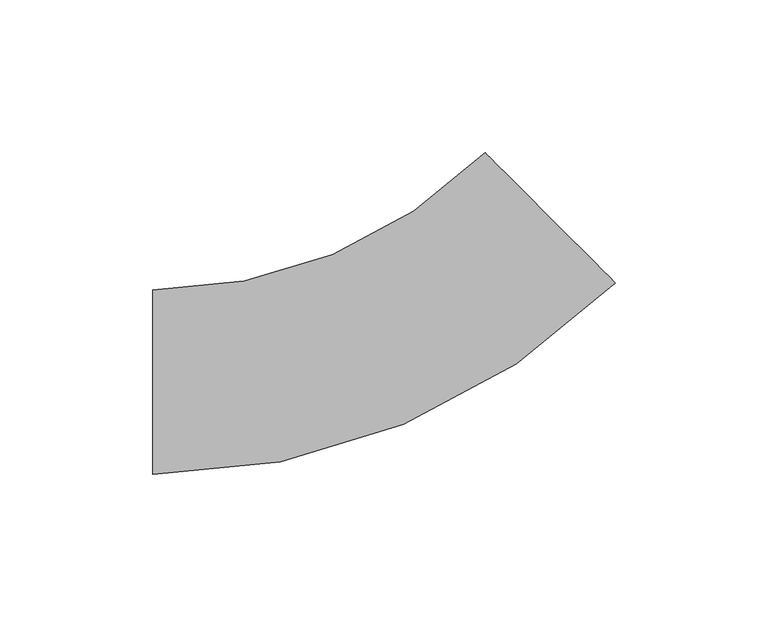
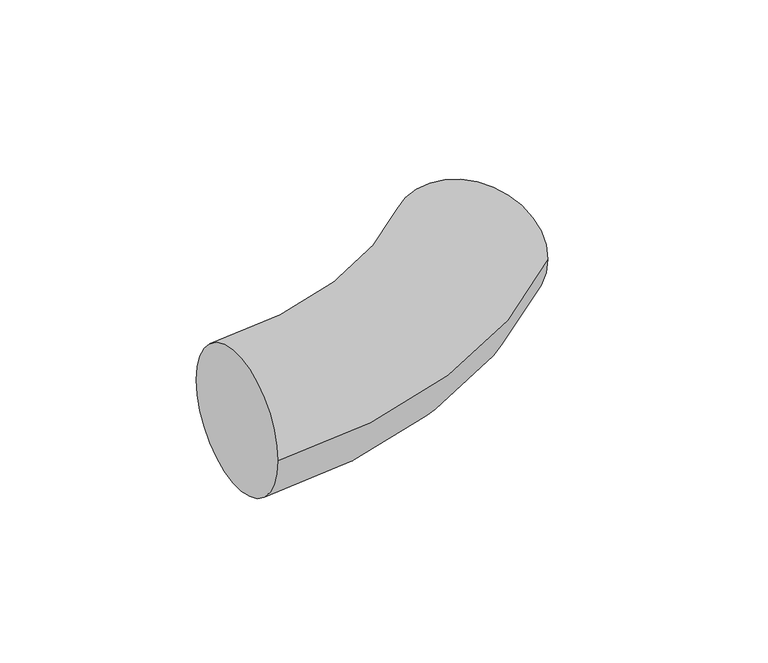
"""IFC4 building model written with IfcOpenShell, lengths in millimetres: pipe fitting geometry, Curva Rede Frigorígena : Curva Rede Frigorígena."""

from ifc_helpers import new_model, si_unit, point, frame, origin, place, context, project, spatial, circle_curve, ellipse_curve, trimmed, source, transform, mapped, element, save
from ifc_brep_helpers import plane_surface, revolved_surface, advanced_brep


def pipe_fitting_fc837bde(model_context):
    return source(origin(), model_context, "Body", "AdvancedBrep", [
        advanced_brep(
        [(-76.2, -30.15, 0.0), (-76.2, 30.15, 0.0), (75.2034405, 32.5561828, 0.0), (32.5683516, 75.1981714, 0.0)],
        [
            (0, 1, circle_curve(frame((-76.2, 0.0, 0.0), z_axis=(-1.0, 0.0, 0.0), x_axis=(0.0, 1.0, 0.0)), 30.15)),
            (1, 0, circle_curve(frame((-76.2, 0.0, 0.0), z_axis=(-1.0, 0.0, 0.0), x_axis=(0.0, 1.0, 0.0)), 30.15)),
            (2, 3, circle_curve(frame((53.885896, 53.8771771, 0.0), z_axis=(0.7071639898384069, 0.7070495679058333, 0.0), x_axis=(-0.7070495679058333, 0.7071639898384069, 0.0)), 30.15)),
            (3, 2, circle_curve(frame((53.885896, 53.8771771, 0.0), z_axis=(0.7071639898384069, 0.7070495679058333, 0.0), x_axis=(-0.7070495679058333, 0.7071639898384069, 0.0)), 30.15)),
            (3, 1, circle_curve(frame((-76.2, 183.9841249, 0.0), z_axis=(0.0, 0.0, -1.0), x_axis=(0.0, -1.0, 0.0)), 153.8341249)),
            (0, 2, circle_curve(frame((-76.2, 183.9841249, 0.0), z_axis=(0.0, 0.0, 1.0), x_axis=(0.0, -1.0, 0.0)), 214.1341249)),
        ],
        [
            plane_surface(frame((-76.2, 0.0, 0.0), z_axis=(-1.0, 0.0, 0.0), x_axis=(0.0, 0.0, 1.0))),
            plane_surface(frame((53.885896, 53.8771771, 0.0), z_axis=(0.7071639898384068, 0.7070495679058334, 0.0), x_axis=(0.0, 0.0, 1.0))),
            revolved_surface(trimmed(ellipse_curve(frame((-76.2, 0.0, 0.0), z_axis=(-1.0, 0.0, 0.0), x_axis=(0.0, 1.0, 0.0)), 30.15, 30.15), [point((-76.2, -30.15, 0.0))], [point((-76.2, 30.15, 0.0))], True, "CARTESIAN"), (-76.2, 183.9841249, 0.0), (0.0, 0.0, 1.0)),
            revolved_surface(trimmed(ellipse_curve(frame((-76.2, 0.0, 0.0), z_axis=(-1.0, 0.0, 0.0), x_axis=(0.0, 1.0, 0.0)), 30.15, 30.15), [point((-76.2, 30.15, 0.0))], [point((-76.2, -30.15, 0.0))], True, "CARTESIAN"), (-76.2, 183.9841249, 0.0), (0.0, 0.0, 1.0)),
        ],
        [
            (0, [[1, 2]]),
            (1, [[3, 4]]),
            (2, [[5, -1, 6, -4]]),
            (3, [[-6, -2, -5, -3]]),
        ],
    ),
    ])


if __name__ == "__main__":
    model = new_model("IFC4")
    model_context = context("Model", 3, world=origin())
    ifc_project = project(units=[si_unit("LENGTHUNIT", "METRE", prefix="MILLI")], contexts=[model_context])
    site = spatial("IfcSite", under=ifc_project)
    building = spatial("IfcBuilding", under=site)
    placement = place(None, origin())
    pipe_fitting_shape = pipe_fitting_fc837bde(model_context)
    element("IfcPipeFitting", 1, ObjectType="Curva Rede Frigorígena : Curva Rede Frigorígena", at=placement, inside=building, context=model_context, shape_type="MappedRepresentation", body=[
        mapped(pipe_fitting_shape, transform((0.0, 0.0, 0.0), x_axis=(1.0, 0.0, 0.0), y_axis=(0.0, 1.0, 0.0), z_axis=(0.0, 0.0, 1.0))),
    ])
    save(model, "model.ifc")
